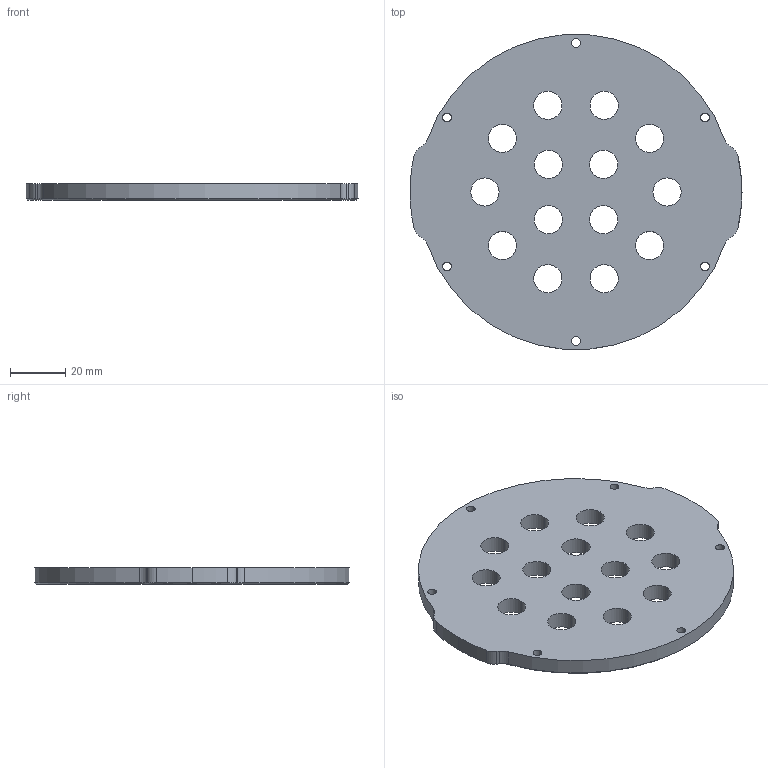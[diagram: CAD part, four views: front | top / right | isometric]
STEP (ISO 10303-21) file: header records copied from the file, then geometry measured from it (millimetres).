
FILE_DESCRIPTION (( 'STEP AP203' ), '1' );
FILE_NAME ('WTE4-M-END-CAP-14X10MM-R1.STEP', '2016-08-12T16:20:12', ( '' ), ( '' ), 'SwSTEP 2.0', 'SolidWorks 2014', '' );
FILE_SCHEMA (( 'CONFIG_CONTROL_DESIGN' ));
Length unit declared in the file: millimetre
Products named in the file (1): WTE4-M-END-CAP-14X10MM-R1
Bounding box: 120.3 x 113.92 x 6 mm (x, y, z)
Volume: 55546.3 mm3; surface area: 23670.6 mm2
Topology: 1 solids, 1 shells, 76 faces, 206 edges, 132 vertices
Faces by surface type: cylinder 53, cone 13, plane 10
Entity records: 2599 total; most frequent: DIRECTION 480, CARTESIAN_POINT 415, ORIENTED_EDGE 412, EDGE_CURVE 206, AXIS2_PLACEMENT_3D 197, VERTEX_POINT 132, CIRCLE 120, EDGE_LOOP 116
